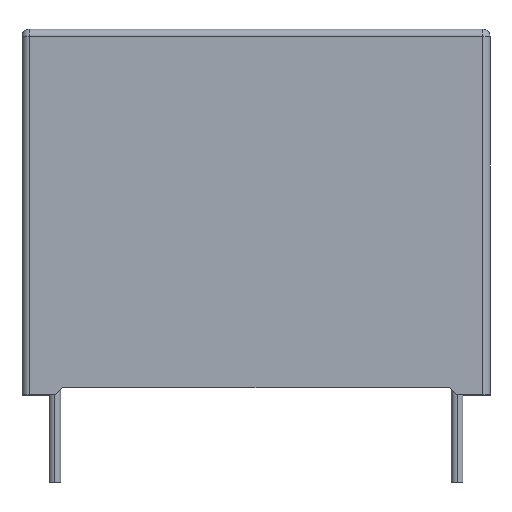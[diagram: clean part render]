
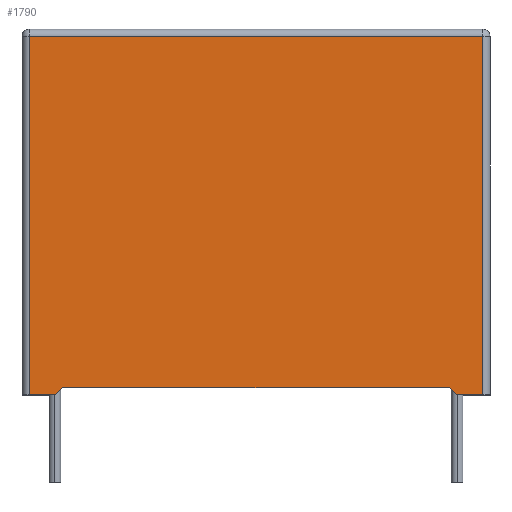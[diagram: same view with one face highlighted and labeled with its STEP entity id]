
A CAD part, top view. The second image highlights one B-rep face of the part: STEP entity #1790.
In plain terms, the highlighted planar face has unit normal (0, 0, 1).
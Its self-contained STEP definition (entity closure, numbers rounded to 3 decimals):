
#15 = VECTOR ( 'NONE', #1459, 1000. ) ;
#142 = VECTOR ( 'NONE', #4262, 1000. ) ;
#153 = AXIS2_PLACEMENT_3D ( 'NONE', #1712, #1657, #1614 ) ;
#161 = LINE ( 'NONE', #1108, #15 ) ;
#222 = CARTESIAN_POINT ( 'NONE',  ( 15.5, 25., 7.5 ) ) ;
#228 = LINE ( 'NONE', #2148, #142 ) ;
#279 = CARTESIAN_POINT ( 'NONE',  ( -13.7, 0., 7.5 ) ) ;
#316 = EDGE_CURVE ( 'NONE', #1911, #2543, #464, .T. ) ;
#386 = DIRECTION ( 'NONE',  ( 1., 0., 0. ) ) ;
#450 = VECTOR ( 'NONE', #2251, 1000. ) ;
#464 = LINE ( 'NONE', #863, #450 ) ;
#525 = VECTOR ( 'NONE', #1007, 1000. ) ;
#593 = DIRECTION ( 'NONE',  ( 0., 1., 0. ) ) ;
#607 = LINE ( 'NONE', #3912, #525 ) ;
#862 = CARTESIAN_POINT ( 'NONE',  ( 13.7, 0., 7.5 ) ) ;
#863 = CARTESIAN_POINT ( 'NONE',  ( -13.7, 0., 7.5 ) ) ;
#915 = CARTESIAN_POINT ( 'NONE',  ( 15.5, 0., 7.5 ) ) ;
#961 = EDGE_CURVE ( 'NONE', #1766, #1884, #1537, .T. ) ;
#1007 = DIRECTION ( 'NONE',  ( -1., 0., 0. ) ) ;
#1036 = VERTEX_POINT ( 'NONE', #2864 ) ;
#1079 = VECTOR ( 'NONE', #593, 1000. ) ;
#1108 = CARTESIAN_POINT ( 'NONE',  ( -15.5, 25., 7.5 ) ) ;
#1219 = VECTOR ( 'NONE', #3302, 1000. ) ;
#1257 = VECTOR ( 'NONE', #1365, 1000. ) ;
#1352 = LINE ( 'NONE', #3303, #1257 ) ;
#1365 = DIRECTION ( 'NONE',  ( 1., 0., 0. ) ) ;
#1459 = DIRECTION ( 'NONE',  ( 0., -1., 0. ) ) ;
#1537 = LINE ( 'NONE', #3322, #1219 ) ;
#1614 = DIRECTION ( 'NONE',  ( -1., 0., 0. ) ) ;
#1655 = VECTOR ( 'NONE', #386, 1000. ) ;
#1657 = DIRECTION ( 'NONE',  ( 0., 0., -1. ) ) ;
#1712 = CARTESIAN_POINT ( 'NONE',  ( -16., 25., 7.5 ) ) ;
#1766 = VERTEX_POINT ( 'NONE', #862 ) ;
#1790 = ADVANCED_FACE ( 'NONE', ( #2522 ), #1919, .F. ) ;
#1844 = LINE ( 'NONE', #222, #1079 ) ;
#1870 = VERTEX_POINT ( 'NONE', #915 ) ;
#1884 = VERTEX_POINT ( 'NONE', #3842 ) ;
#1911 = VERTEX_POINT ( 'NONE', #4127 ) ;
#1919 = PLANE ( 'NONE',  #153 ) ;
#1969 = EDGE_CURVE ( 'NONE', #1870, #1036, #1844, .T. ) ;
#1996 = EDGE_LOOP ( 'NONE', ( #4075, #4097, #4128, #4158, #4191, #4203, #4223, #4228 ) ) ;
#2148 = CARTESIAN_POINT ( 'NONE',  ( -16., 24.5, 7.5 ) ) ;
#2150 = CARTESIAN_POINT ( 'NONE',  ( -16., 0., 7.5 ) ) ;
#2199 = EDGE_CURVE ( 'NONE', #1036, #2440, #228, .T. ) ;
#2228 = EDGE_CURVE ( 'NONE', #2440, #2504, #161, .T. ) ;
#2251 = DIRECTION ( 'NONE',  ( -0.707, -0.707, 0. ) ) ;
#2440 = VERTEX_POINT ( 'NONE', #3862 ) ;
#2504 = VERTEX_POINT ( 'NONE', #3601 ) ;
#2522 = FACE_OUTER_BOUND ( 'NONE', #1996, .T. ) ;
#2543 = VERTEX_POINT ( 'NONE', #279 ) ;
#2574 = EDGE_CURVE ( 'NONE', #2504, #2543, #1352, .T. ) ;
#2598 = EDGE_CURVE ( 'NONE', #1884, #1911, #607, .T. ) ;
#2864 = CARTESIAN_POINT ( 'NONE',  ( 15.5, 24.5, 7.5 ) ) ;
#3302 = DIRECTION ( 'NONE',  ( -0.707, 0.707, 0. ) ) ;
#3303 = CARTESIAN_POINT ( 'NONE',  ( -16., 0., 7.5 ) ) ;
#3322 = CARTESIAN_POINT ( 'NONE',  ( 13.2, 0.5, 7.5 ) ) ;
#3495 = EDGE_CURVE ( 'NONE', #1766, #1870, #3579, .T. ) ;
#3579 = LINE ( 'NONE', #2150, #1655 ) ;
#3601 = CARTESIAN_POINT ( 'NONE',  ( -15.5, 0., 7.5 ) ) ;
#3842 = CARTESIAN_POINT ( 'NONE',  ( 13.2, 0.5, 7.5 ) ) ;
#3862 = CARTESIAN_POINT ( 'NONE',  ( -15.5, 24.5, 7.5 ) ) ;
#3912 = CARTESIAN_POINT ( 'NONE',  ( -13.2, 0.5, 7.5 ) ) ;
#4075 = ORIENTED_EDGE ( 'NONE', *, *, #2598, .F. ) ;
#4097 = ORIENTED_EDGE ( 'NONE', *, *, #961, .F. ) ;
#4127 = CARTESIAN_POINT ( 'NONE',  ( -13.2, 0.5, 7.5 ) ) ;
#4128 = ORIENTED_EDGE ( 'NONE', *, *, #3495, .T. ) ;
#4158 = ORIENTED_EDGE ( 'NONE', *, *, #1969, .T. ) ;
#4191 = ORIENTED_EDGE ( 'NONE', *, *, #2199, .T. ) ;
#4203 = ORIENTED_EDGE ( 'NONE', *, *, #2228, .T. ) ;
#4223 = ORIENTED_EDGE ( 'NONE', *, *, #2574, .T. ) ;
#4228 = ORIENTED_EDGE ( 'NONE', *, *, #316, .F. ) ;
#4262 = DIRECTION ( 'NONE',  ( -1., 0., 0. ) ) ;
